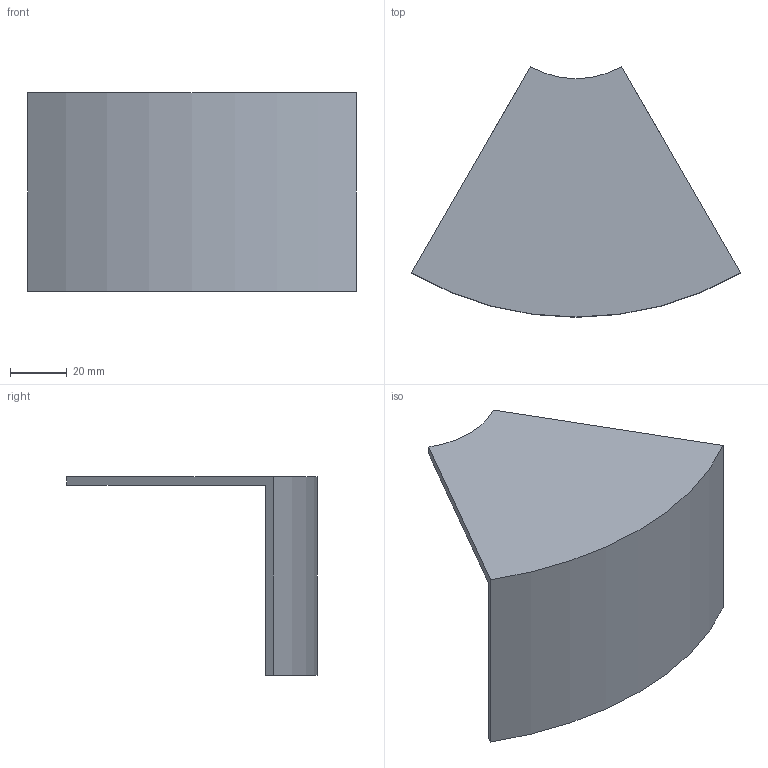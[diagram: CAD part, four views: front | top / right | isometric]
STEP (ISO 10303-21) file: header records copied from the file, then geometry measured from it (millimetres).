
FILE_DESCRIPTION(('Open CASCADE Model'),'2;1');
FILE_NAME('Open CASCADE Shape Model','2026-10-06T19:56:09',('Author'),( 'Open CASCADE'),'Open CASCADE STEP processor 7.9','Open CASCADE 7.9' ,'Unknown');
FILE_SCHEMA(('AUTOMOTIVE_DESIGN { 1 0 10303 214 1 1 1 1 }'));
Length unit declared in the file: millimetre
Products named in the file (1): Open CASCADE STEP translator 7.9 18
Bounding box: 116 x 88.29 x 70 mm (x, y, z)
Volume: 43628.9 mm3; surface area: 30456.9 mm2
Topology: 1 solids, 1 shells, 8 faces, 18 edges, 12 vertices
Faces by surface type: plane 5, cylinder 3
Entity records: 484 total; most frequent: CARTESIAN_POINT 99, DIRECTION 74, LINE 42, VECTOR 42, ORIENTED_EDGE 36, PCURVE 36, DEFINITIONAL_REPRESENTATION 36, EDGE_CURVE 18
